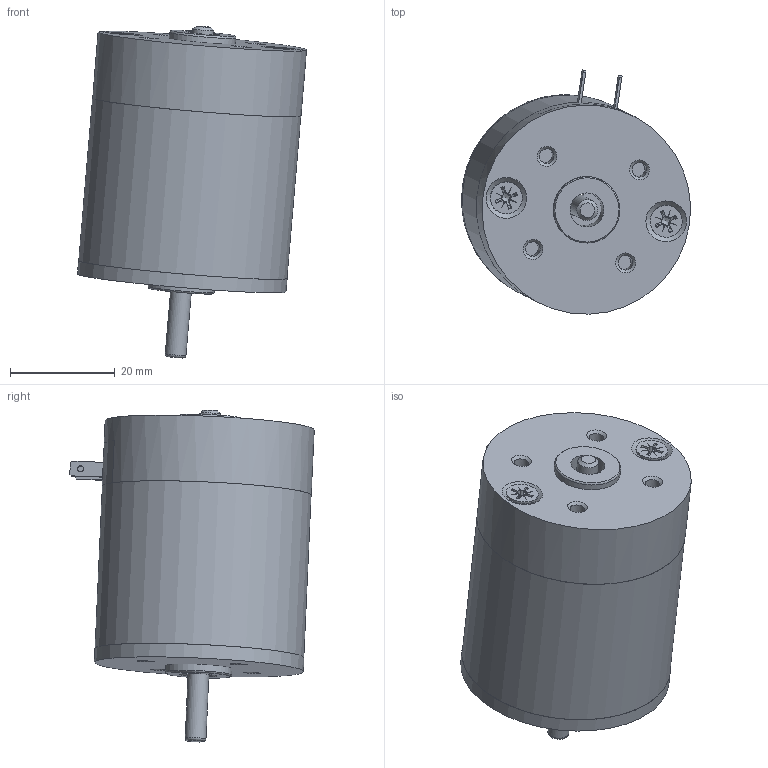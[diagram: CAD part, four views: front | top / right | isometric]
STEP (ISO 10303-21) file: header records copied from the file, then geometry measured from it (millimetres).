
FILE_DESCRIPTION(/* description */ (''),/* implementation_level */ '2;1');
FILE_NAME(/* name */ 'Z:\새 폴더\Compact Type RM4_3D\RM42ㅁBT.stp',/* time_stamp */ '2022-04-05T16:08:04+09:00',/* author */ ('umbro'),/* organization */ (''),/* preprocessor_version */ 'ST-DEVELOPER v17',/* originating_system */ 'Autodesk Inventor 2019',/* authorisation */ '');
FILE_SCHEMA (('AUTOMOTIVE_DESIGN { 1 0 10303 214 3 1 1 }'));
Length unit declared in the file: millimetre
Products named in the file (8): RM42ㅁBT(취부 0.1mm); REAR_HOUSING__ASS'Y_TERMINAL; RM4TYPE_BRUSH_BRAKET_TERMINAL; RM4TYPE_REAR_HOUSING; RM4TYPE_FRONT_HOUSING_; RM4TYPE_PIPE_HOUSING_pi40XL31.2; RM42TYPE_SHAFT; AS 1427 Z - 미터 M3.5 x 5
Assembly tree (7 placements, depth 2):
  RM42ㅁBT(취부 0.1mm)
    RM4TYPE_FRONT_HOUSING_
    RM4TYPE_PIPE_HOUSING_pi40XL31.2
    RM42TYPE_SHAFT
    AS 1427 Z - 미터 M3.5 x 5  x2
  REAR_HOUSING__ASS'Y_TERMINAL
    RM4TYPE_BRUSH_BRAKET_TERMINAL
    RM4TYPE_REAR_HOUSING
Bounding box: 43.78 x 46.69 x 63.42 mm (x, y, z)
Volume: 18639.2 mm3; surface area: 17654.7 mm2
Topology: 7 solids, 7 shells, 158 faces, 405 edges, 266 vertices
Faces by surface type: plane 73, cone 44, cylinder 30, torus 11
Full cylindrical faces by diameter (mm): 1.2 x2, 2.7 x4, 2.8 x4, 3.132 x2, 3.5 x2, 3.7 x2, 3.969 x1, 4 x1, 6.1 x2, 6.5 x1, 6.65 x1, 12.7 x2, 36.5 x1, 40 x3
Entity records: 4068 total; most frequent: CARTESIAN_POINT 834, DIRECTION 643, ORIENTED_EDGE 580, EDGE_CURVE 290, AXIS2_PLACEMENT_3D 256, VERTEX_POINT 191, EDGE_LOOP 153, LINE 131
